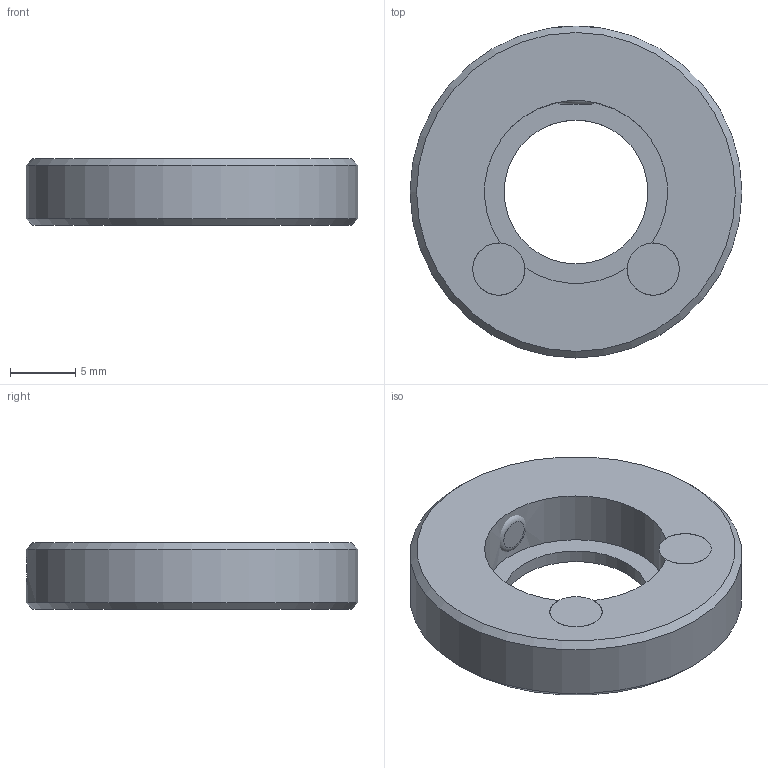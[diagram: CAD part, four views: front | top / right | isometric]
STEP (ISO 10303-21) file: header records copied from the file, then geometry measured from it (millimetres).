
FILE_DESCRIPTION (( 'STEP AP203' ), '1' );
FILE_NAME ('OA-1005T-1.step', '2017-02-23T08:59:45', ( '¦K¬P' ), ( '' ), 'SwSTEP 2.0', 'SolidWorks 2012', '' );
FILE_SCHEMA (( 'CONFIG_CONTROL_DESIGN' ));
Length unit declared in the file: millimetre
Products named in the file (1): OA-1005T-1
Bounding box: 25.4 x 25.4 x 5.1 mm (x, y, z)
Surface area: 1549.7 mm2 (no closed solid volume)
Topology: 0 solids, 4 shells, 16 faces, 34 edges, 22 vertices
Faces by surface type: cylinder 7, plane 6, cone 2, torus 1
Full cylindrical faces by diameter (mm): 2.5 x1, 4 x2, 11 x1, 25.4 x1
Entity records: 547 total; most frequent: CARTESIAN_POINT 139, DIRECTION 78, ORIENTED_EDGE 41, AXIS2_PLACEMENT_3D 37, EDGE_LOOP 29, EDGE_CURVE 26, FACE_OUTER_BOUND 22, VERTEX_POINT 22
